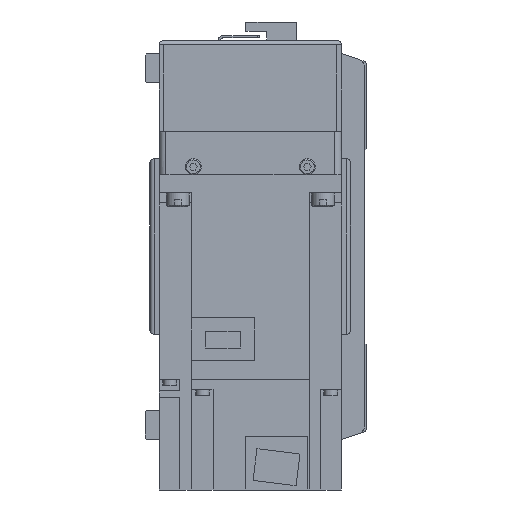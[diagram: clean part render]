
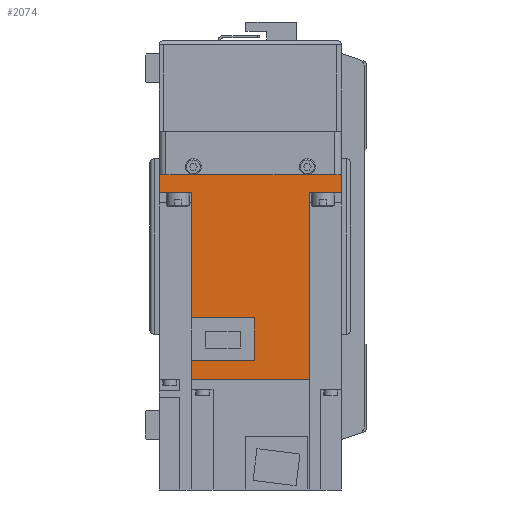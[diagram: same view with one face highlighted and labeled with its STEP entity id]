
A CAD part, left-side view. The second image highlights one B-rep face of the part: STEP entity #2074.
In plain terms, the highlighted planar face has unit normal (-1, 0, 0) as drawn and (1, 0, 0) by its records, which use the part's own axes.
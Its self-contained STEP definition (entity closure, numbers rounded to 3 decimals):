
#2074 = ADVANCED_FACE( '', ( #4613 ), #4614, .F. );
#4613 = FACE_OUTER_BOUND( '', #7673, .T. );
#4614 = PLANE( '', #7674 );
#7673 = EDGE_LOOP( '', ( #13447, #13448, #13449, #13450, #13451, #13452, #13453, #13454, #13455, #13456, #13457, #13458 ) );
#7674 = AXIS2_PLACEMENT_3D( '', #13459, #13460, #13461 );
#13447 = ORIENTED_EDGE( '', *, *, #19899, .F. );
#13448 = ORIENTED_EDGE( '', *, *, #18050, .F. );
#13449 = ORIENTED_EDGE( '', *, *, #18860, .F. );
#13450 = ORIENTED_EDGE( '', *, *, #18302, .T. );
#13451 = ORIENTED_EDGE( '', *, *, #19055, .F. );
#13452 = ORIENTED_EDGE( '', *, *, #19900, .T. );
#13453 = ORIENTED_EDGE( '', *, *, #19901, .T. );
#13454 = ORIENTED_EDGE( '', *, *, #19902, .F. );
#13455 = ORIENTED_EDGE( '', *, *, #19048, .F. );
#13456 = ORIENTED_EDGE( '', *, *, #18052, .F. );
#13457 = ORIENTED_EDGE( '', *, *, #18577, .F. );
#13458 = ORIENTED_EDGE( '', *, *, #19903, .F. );
#13459 = CARTESIAN_POINT( '', ( 40., 89.8, 40. ) );
#13460 = DIRECTION( '', ( -1., 0., 0. ) );
#13461 = DIRECTION( '', ( 0., 0., 1. ) );
#18050 = EDGE_CURVE( '', #21677, #21679, #21680, .T. );
#18052 = EDGE_CURVE( '', #21681, #21683, #21684, .T. );
#18302 = EDGE_CURVE( '', #22118, #22116, #22119, .T. );
#18577 = EDGE_CURVE( '', #22578, #21681, #22579, .T. );
#18860 = EDGE_CURVE( '', #22118, #21677, #23042, .T. );
#19048 = EDGE_CURVE( '', #21683, #23348, #23349, .T. );
#19055 = EDGE_CURVE( '', #23359, #22116, #23361, .T. );
#19899 = EDGE_CURVE( '', #21679, #24592, #24593, .T. );
#19900 = EDGE_CURVE( '', #23359, #24594, #24595, .T. );
#19901 = EDGE_CURVE( '', #24594, #24596, #24597, .T. );
#19902 = EDGE_CURVE( '', #23348, #24596, #24598, .T. );
#19903 = EDGE_CURVE( '', #24592, #22578, #24599, .T. );
#21677 = VERTEX_POINT( '', #26923 );
#21679 = VERTEX_POINT( '', #26926 );
#21680 = LINE( '', #26927, #26928 );
#21681 = VERTEX_POINT( '', #26929 );
#21683 = VERTEX_POINT( '', #26932 );
#21684 = LINE( '', #26933, #26934 );
#22116 = VERTEX_POINT( '', #27523 );
#22118 = VERTEX_POINT( '', #27526 );
#22119 = LINE( '', #27527, #27528 );
#22578 = VERTEX_POINT( '', #28149 );
#22579 = LINE( '', #28150, #28151 );
#23042 = LINE( '', #28798, #28799 );
#23348 = VERTEX_POINT( '', #29243 );
#23349 = LINE( '', #29244, #29245 );
#23359 = VERTEX_POINT( '', #29259 );
#23361 = LINE( '', #29262, #29263 );
#24592 = VERTEX_POINT( '', #31057 );
#24593 = LINE( '', #31058, #31059 );
#24594 = VERTEX_POINT( '', #31060 );
#24595 = LINE( '', #31061, #31062 );
#24596 = VERTEX_POINT( '', #31063 );
#24597 = LINE( '', #31064, #31065 );
#24598 = LINE( '', #31066, #31067 );
#24599 = LINE( '', #31068, #31069 );
#26923 = CARTESIAN_POINT( '', ( 40., 89.8, -25.95 ) );
#26926 = CARTESIAN_POINT( '', ( 40., 81.4, -25.95 ) );
#26927 = CARTESIAN_POINT( '', ( 40., 158., -25.95 ) );
#26928 = VECTOR( '', #33342, 1000. );
#26929 = CARTESIAN_POINT( '', ( 40., 62.8, -25.95 ) );
#26932 = CARTESIAN_POINT( '', ( 40., 8., -25.95 ) );
#26933 = CARTESIAN_POINT( '', ( 40., 158., -25.95 ) );
#26934 = VECTOR( '', #33344, 1000. );
#27523 = CARTESIAN_POINT( '', ( 40., 8., 25.95 ) );
#27526 = CARTESIAN_POINT( '', ( 40., 89.8, 25.95 ) );
#27527 = CARTESIAN_POINT( '', ( 40., 158., 25.95 ) );
#27528 = VECTOR( '', #33664, 1000. );
#28149 = CARTESIAN_POINT( '', ( 40., 62.8, 1.8 ) );
#28150 = CARTESIAN_POINT( '', ( 40., 62.8, 1.8 ) );
#28151 = VECTOR( '', #34003, 1000. );
#28798 = CARTESIAN_POINT( '', ( 40., 89.8, 40. ) );
#28799 = VECTOR( '', #34342, 1000. );
#29243 = CARTESIAN_POINT( '', ( 40., 8., -40. ) );
#29244 = CARTESIAN_POINT( '', ( 40., 8., 40. ) );
#29245 = VECTOR( '', #34568, 1000. );
#29259 = CARTESIAN_POINT( '', ( 40., 8., 40. ) );
#29262 = CARTESIAN_POINT( '', ( 40., 8., 40. ) );
#29263 = VECTOR( '', #34574, 1000. );
#31057 = CARTESIAN_POINT( '', ( 40., 81.4, 1.8 ) );
#31058 = CARTESIAN_POINT( '', ( 40., 81.4, -26. ) );
#31059 = VECTOR( '', #35604, 1000. );
#31060 = CARTESIAN_POINT( '', ( 40., 0., 40. ) );
#31061 = CARTESIAN_POINT( '', ( 40., 89.8, 40. ) );
#31062 = VECTOR( '', #35605, 1000. );
#31063 = CARTESIAN_POINT( '', ( 40., 0., -40. ) );
#31064 = CARTESIAN_POINT( '', ( 40., 0., 40. ) );
#31065 = VECTOR( '', #35606, 1000. );
#31066 = CARTESIAN_POINT( '', ( 40., 89.8, -40. ) );
#31067 = VECTOR( '', #35607, 1000. );
#31068 = CARTESIAN_POINT( '', ( 40., 81.4, 1.8 ) );
#31069 = VECTOR( '', #35608, 1000. );
#33342 = DIRECTION( '', ( 0., -1., 0. ) );
#33344 = DIRECTION( '', ( 0., -1., 0. ) );
#33664 = DIRECTION( '', ( 0., -1., 0. ) );
#34003 = DIRECTION( '', ( 0., 0., -1. ) );
#34342 = DIRECTION( '', ( 0., 0., -1. ) );
#34568 = DIRECTION( '', ( 0., 0., -1. ) );
#34574 = DIRECTION( '', ( 0., 0., -1. ) );
#35604 = DIRECTION( '', ( 0., 0., 1. ) );
#35605 = DIRECTION( '', ( 0., -1., 0. ) );
#35606 = DIRECTION( '', ( 0., 0., -1. ) );
#35607 = DIRECTION( '', ( 0., -1., 0. ) );
#35608 = DIRECTION( '', ( 0., -1., 0. ) );
